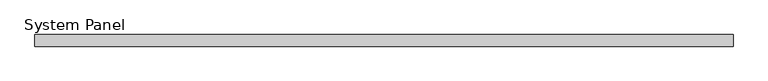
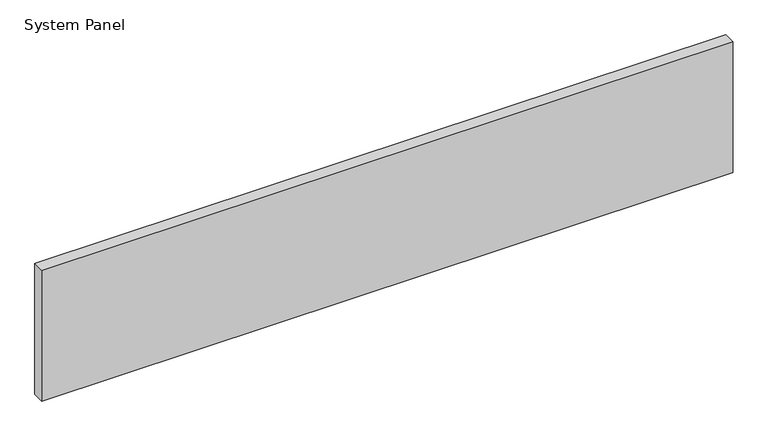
"""IFC4 building model written with IfcOpenShell, lengths in millimetres: plate geometry, System Panel : Equitilt 100mm Horizontal - Plain RHEA - EPS-FR."""

from ifc_helpers import new_model, si_unit, origin, origin_with_axes, place, context, project, spatial, polyline, outline, extrude, source, transform, mapped, element, save


def system_panel_48e39383(model_context):
    return source(origin(), model_context, "Body", "SweptSolid", [
        extrude(outline(polyline([(2995.0, 0.0), (-2995.0, 0.0), (-2995.0, 100.0), (2995.0, 100.0), (2995.0, 0.0)])), origin_with_axes(), (0.0, 0.0, 1.0), 1200.0),
    ])


if __name__ == "__main__":
    model = new_model("IFC4")
    model_context = context("Model", 3, world=origin())
    ifc_project = project(units=[si_unit("LENGTHUNIT", "METRE", prefix="MILLI")], contexts=[model_context])
    site = spatial("IfcSite", under=ifc_project)
    building = spatial("IfcBuilding", under=site)
    placement = place(None, origin())
    system_panel_shape = system_panel_48e39383(model_context)
    element("IfcPlate", 1, ObjectType="System Panel : Equitilt 100mm Horizontal - Plain RHEA - EPS-FR", at=placement, inside=building, context=model_context, shape_type="MappedRepresentation", body=[
        mapped(system_panel_shape, transform((0.0, 0.0, 0.0), x_axis=(1.0, 0.0, 0.0), y_axis=(0.0, 1.0, 0.0), z_axis=(0.0, 0.0, 1.0))),
    ])
    save(model, "model.ifc")
